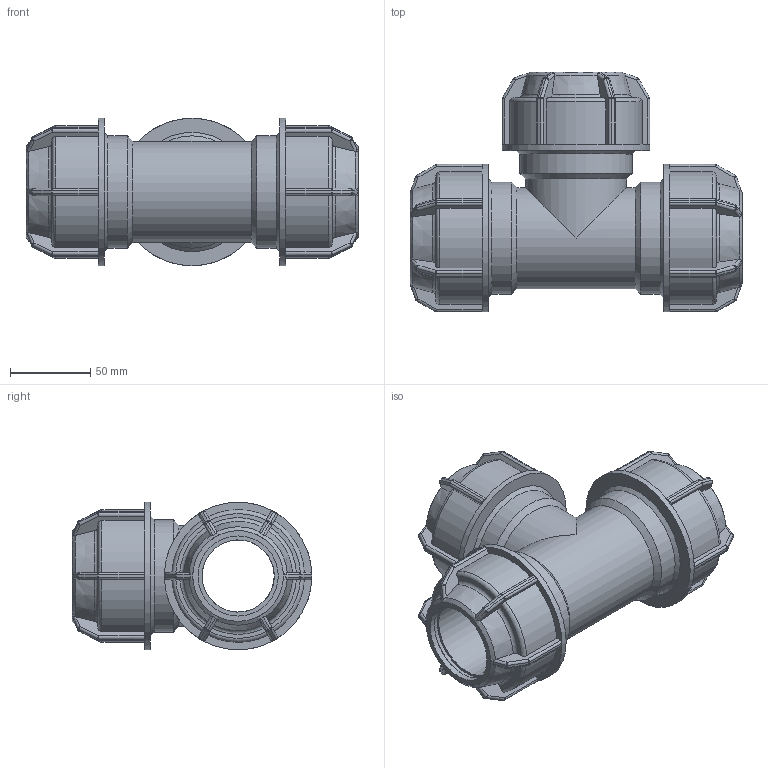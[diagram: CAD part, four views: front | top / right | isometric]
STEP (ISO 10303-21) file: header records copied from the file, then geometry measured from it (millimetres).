
FILE_DESCRIPTION(/* description */ ('PLASSON L.14 TEE (SILVER) 50-50-50'),/* implementation_level */ '2;1');
FILE_NAME(/* name */ 'C:\Dropbox\KIMPROJECTS-Inventor\99-16-3568-Processing\Silver+MF ISRAEL\140400\140400050.ipt.stp',/* time_stamp */ '2018-04-09T13:03:43+03:00',/* author */ ('KIM'),/* organization */ (''),/* preprocessor_version */ 'ST-DEVELOPER v15.6',/* originating_system */ 'Autodesk Inventor 2015',/* authorisation */ '');
FILE_SCHEMA (('AUTOMOTIVE_DESIGN { 1 0 10303 214 3 1 1 }'));
Length unit declared in the file: millimetre
Products named in the file (1): 140400050
Bounding box: 207 x 149.5 x 92 mm (x, y, z)
Volume: 638326.9 mm3; surface area: 133742.5 mm2
Topology: 1 solids, 1 shells, 607 faces, 1455 edges, 839 vertices
Faces by surface type: plane 288, cylinder 178, sphere 72, torus 42, cone 27
Full cylindrical faces by diameter (mm): 45 x2, 50 x6, 63 x2, 70 x3, 92 x3
Entity records: 17636 total; most frequent: CARTESIAN_POINT 4528, DIRECTION 2760, ORIENTED_EDGE 2708, EDGE_CURVE 1354, AXIS2_PLACEMENT_3D 1110, VERTEX_POINT 796, EDGE_LOOP 646, FACE_OUTER_BOUND 601
